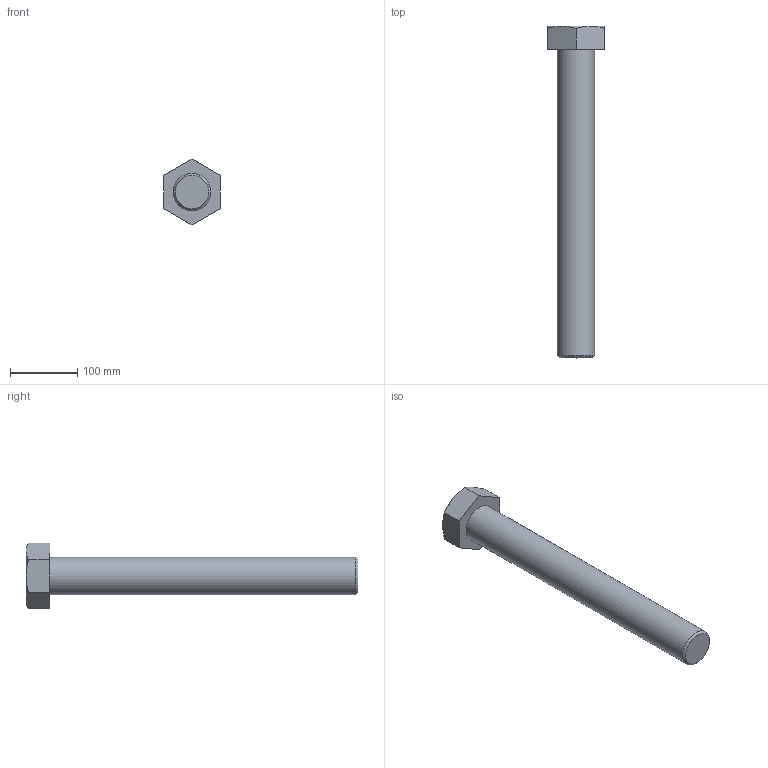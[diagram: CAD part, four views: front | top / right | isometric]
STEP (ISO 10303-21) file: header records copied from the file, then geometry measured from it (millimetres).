
FILE_DESCRIPTION(/* description */ (''),/* implementation_level */ '2;1');
FILE_NAME(/* name */ 'C:\Users\unitec\Documents\Inventor\各種小物\JIS\JIS B 1180 六角ボルト 等級C\hbc56\M56x460.stp',/* time_stamp */ '2015-02-13T15:00:16+09:00',/* author */ ('unitec'),/* organization */ (''),/* preprocessor_version */ 'ST-DEVELOPER v15.2',/* originating_system */ 'Autodesk Inventor 2014',/* authorisation */ '');
FILE_SCHEMA (('AUTOMOTIVE_DESIGN { 1 0 10303 214 3 1 1 }'));
Length unit declared in the file: millimetre
Products named in the file (1): M56x460
Bounding box: 85 x 495 x 98.15 mm (x, y, z)
Volume: 1350514.7 mm3; surface area: 103125.3 mm2
Topology: 1 solids, 1 shells, 17 faces, 35 edges, 21 vertices
Faces by surface type: plane 9, cone 7, cylinder 1
Full cylindrical faces by diameter (mm): 56 x1
Entity records: 441 total; most frequent: CARTESIAN_POINT 96, ORIENTED_EDGE 66, DIRECTION 66, EDGE_CURVE 33, AXIS2_PLACEMENT_3D 27, VERTEX_POINT 21, EDGE_LOOP 20, ADVANCED_FACE 17
